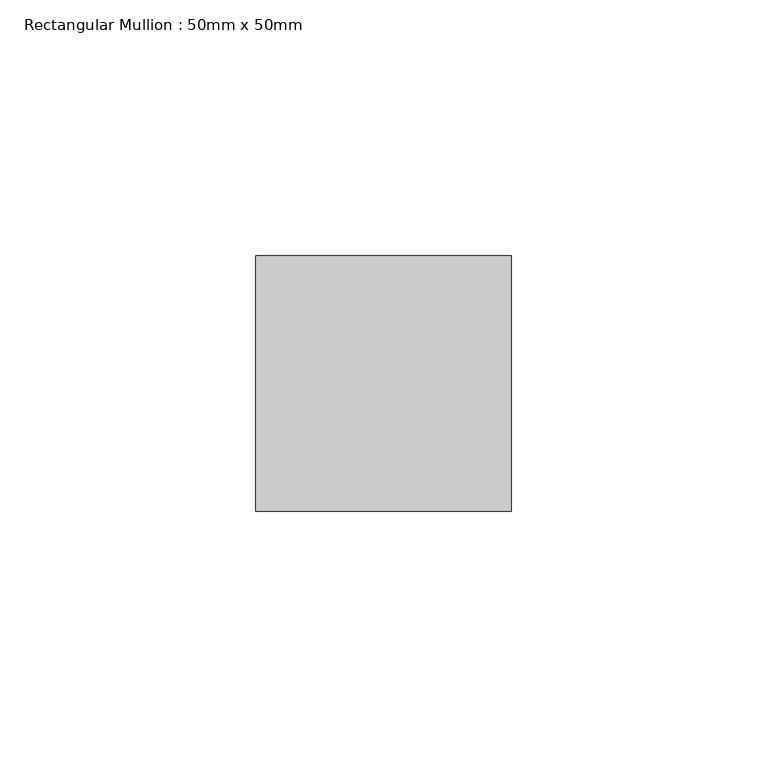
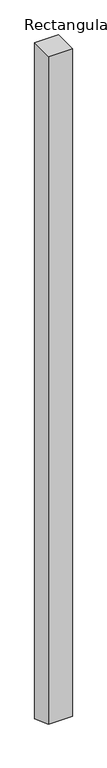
"""IFC4 building model written with IfcOpenShell, lengths in millimetres: member geometry, Rectangular Mullion : 50mm x 50mm."""

import ifcopenshell
import ifcopenshell.guid

model = None  # the IFC model being written
_history = None  # IfcOwnerHistory: only IFC2X3 demands one
_inside = {}  # id of a spatial element -> (the spatial element, [elements in it])
_under = {}  # id of a project, library or spatial element -> (it, [spatial elements below it])
_declared = {}  # id of a project -> (the project, [libraries it declares])
_typed = {}  # id of a type object -> (the type object, [elements of that type])
_made_of = {}  # id of a material, layer set ... -> (it, [elements and type objects made of it])


def new_model(schema):
    """Start an empty IFC model of exactly this schema.

    Asked for "IFC4X3", IfcOpenShell would pick the latest addendum, in which some entities
    have other attributes; the version numbers below select the first issue.
    IFC2X3 requires an IfcOwnerHistory on every rooted entity: one is made here for all.
    """
    global model, _history
    if schema == "IFC4X3":
        model = ifcopenshell.file(schema_version=(4, 3, 0, 0))
    else:
        model = ifcopenshell.file(schema=schema)
    _inside.clear()
    _under.clear()
    _declared.clear()
    _typed.clear()
    _made_of.clear()
    _history = None
    if model.schema == "IFC2X3":
        org = make("IfcOrganization", Name="unknown")
        user = make(
            "IfcPersonAndOrganization",
            ThePerson=make("IfcPerson", FamilyName="unknown"),
            TheOrganization=org,
        )
        app = make(
            "IfcApplication",
            ApplicationDeveloper=org,
            Version="unknown",
            ApplicationFullName="unknown",
            ApplicationIdentifier="unknown",
        )
        _history = make(
            "IfcOwnerHistory",
            OwningUser=user,
            OwningApplication=app,
            ChangeAction="ADDED",
            CreationDate=0,
        )
    return model


def make(cls, **values):
    """One entity of the class cls with the attributes given. An attribute that is None is left unset."""
    return model.create_entity(
        cls, **{name: value for name, value in values.items() if value is not None}
    )


def rooted(cls, **values):
    """An entity with a GlobalId (a new one), such as an element, a storey or a relation."""
    return make(cls, GlobalId=ifcopenshell.guid.new(), OwnerHistory=_history, **values)


def si_unit(unit_type, name, prefix=None):
    """IfcSIUnit, for example si_unit("LENGTHUNIT", "METRE", prefix="MILLI")."""
    return make("IfcSIUnit", UnitType=unit_type, Prefix=prefix, Name=name)


def assignment(units):
    """IfcUnitAssignment: the units of a project."""
    return None if units is None else make("IfcUnitAssignment", Units=units)


def point(xyz):
    """IfcCartesianPoint."""
    return None if xyz is None else make("IfcCartesianPoint", Coordinates=xyz)


def direction(xyz):
    """IfcDirection."""
    return None if xyz is None else make("IfcDirection", DirectionRatios=xyz)


def frame(location, z_axis=None, x_axis=None):
    """IfcAxis2Placement3D, a coordinate frame: its origin and axes. An axis left out is left unset."""
    return make(
        "IfcAxis2Placement3D",
        Location=point(location),
        Axis=direction(z_axis),
        RefDirection=direction(x_axis),
    )


def origin():
    """The frame at (0, 0, 0) with its axes left unset."""
    return frame((0.0, 0.0, 0.0))


def place(relative_to, where):
    """IfcLocalPlacement: puts the frame where relative to a parent placement (None: the world)."""
    return make(
        "IfcLocalPlacement", PlacementRelTo=relative_to, RelativePlacement=where
    )


def context(
    kind, dimensions, precision=None, world=None, true_north=None, identifier=None
):
    """IfcGeometricRepresentationContext, for example the 3D "Model" context."""
    return make(
        "IfcGeometricRepresentationContext",
        ContextIdentifier=identifier,
        ContextType=kind,
        CoordinateSpaceDimension=dimensions,
        Precision=precision,
        WorldCoordinateSystem=world,
        TrueNorth=true_north,
    )


def project(units=None, contexts=None):
    """IfcProject with its units and contexts."""
    return rooted(
        "IfcProject",
        Name="project",
        RepresentationContexts=contexts,
        UnitsInContext=assignment(units),
    )


def spatial(cls, under=None, at=None, **own):
    """A site, building, storey or space (cls), placed at a placement, below another one or the project."""
    s = rooted(cls, ObjectPlacement=at, **own)
    if under is not None:
        _under.setdefault(under.id(), (under, []))[1].append(s)
    return s


def polyline(points):
    """IfcPolyline through the points."""
    return make("IfcPolyline", Points=[point(p) for p in points])


def outline(outer, holes=None, kind="AREA"):
    """IfcArbitraryClosedProfileDef: a profile drawn as a closed curve; with holes, ...WithVoids."""
    if holes is None:
        return make("IfcArbitraryClosedProfileDef", ProfileType=kind, OuterCurve=outer)
    return make(
        "IfcArbitraryProfileDefWithVoids",
        ProfileType=kind,
        OuterCurve=outer,
        InnerCurves=holes,
    )


def extrude(swept, where, along, depth):
    """IfcExtrudedAreaSolid: the profile swept, set in the frame where, extruded along a direction by depth."""
    return make(
        "IfcExtrudedAreaSolid",
        SweptArea=swept,
        Position=where,
        ExtrudedDirection=direction(along),
        Depth=depth,
    )


def shape(context_of_items, identifier, shape_type, items):
    """IfcShapeRepresentation: the items that make up one representation, for example the "Body"."""
    return make(
        "IfcShapeRepresentation",
        ContextOfItems=context_of_items,
        RepresentationIdentifier=identifier,
        RepresentationType=shape_type,
        Items=items,
    )


def source(mapping_origin, context_of_items, identifier, shape_type, items):
    """IfcRepresentationMap: a shape defined once, which mapped items show again and again."""
    return make(
        "IfcRepresentationMap",
        MappingOrigin=mapping_origin,
        MappedRepresentation=shape(context_of_items, identifier, shape_type, items),
    )


def transform(
    local_origin,
    x_axis=None,
    y_axis=None,
    z_axis=None,
    scale=None,
    scale2=None,
    scale3=None,
    uniform=True,
):
    """IfcCartesianTransformationOperator3D, or its non-uniform kind. x_axis, y_axis, z_axis: its Axis1, 2, 3."""
    if uniform:
        return make(
            "IfcCartesianTransformationOperator3D",
            Axis1=direction(x_axis),
            Axis2=direction(y_axis),
            LocalOrigin=point(local_origin),
            Scale=scale,
            Axis3=direction(z_axis),
        )
    return make(
        "IfcCartesianTransformationOperator3DnonUniform",
        Axis1=direction(x_axis),
        Axis2=direction(y_axis),
        LocalOrigin=point(local_origin),
        Scale=scale,
        Axis3=direction(z_axis),
        Scale2=scale2,
        Scale3=scale3,
    )


def mapped(mapping_source, mapping_target):
    """IfcMappedItem: shows the shape of a source again, moved by a transform."""
    return make(
        "IfcMappedItem", MappingSource=mapping_source, MappingTarget=mapping_target
    )


def made_of(thing, what):
    """Note that an element or type object is made of a material, layer set ...; save() writes the relation."""
    if what is not None:
        _made_of.setdefault(what.id(), (what, []))[1].append(thing)
    return thing


def element(
    cls,
    number,
    at=None,
    inside=None,
    cuts=None,
    type_object=None,
    material=None,
    context=None,
    identifier="Body",
    shape_type=None,
    held_by="IfcProductDefinitionShape",
    body=None,
    shapes=None,
    **own,
):
    """One element of the class cls, such as IfcWall. Its Tag is "e" and its number.

    at: its placement. inside: the storey or other place that contains it. cuts: it is an
    opening in that element (IfcRelVoidsElement). A single representation is given by context,
    identifier, shape_type and body (its items); several are given by shapes. held_by: the class
    of the entity that holds the representations. save() writes the other relations.
    """
    e = rooted(cls, Tag="e%d" % number, ObjectPlacement=at, **own)
    if body is not None:
        shapes = [shape(context, identifier, shape_type, body)]
    if shapes is not None:
        e.Representation = make(held_by, Representations=shapes)
    if inside is not None:
        _inside.setdefault(inside.id(), (inside, []))[1].append(e)
    if cuts is not None:
        rooted(
            "IfcRelVoidsElement", RelatingBuildingElement=cuts, RelatedOpeningElement=e
        )
    if type_object is not None:
        _typed.setdefault(type_object.id(), (type_object, []))[1].append(e)
    return made_of(e, material)


def aggregate(whole, parts):
    """IfcRelAggregates: a whole, such as a stair, and the parts it consists of."""
    return rooted("IfcRelAggregates", RelatingObject=whole, RelatedObjects=parts)


def save(model, path):
    """Write the relations noted so far, then the file.

    IfcRelAggregates (storeys below a building ...), IfcRelContainedInSpatialStructure (elements
    in a storey), IfcRelDefinesByType, IfcRelAssociatesMaterial and IfcRelDeclares: one each for
    every whole, place, type object, material and project.
    """
    for whole, parts in _under.values():
        aggregate(whole, parts)
    for where, things in _inside.values():
        rooted(
            "IfcRelContainedInSpatialStructure",
            RelatedElements=things,
            RelatingStructure=where,
        )
    for kind, things in _typed.values():
        rooted("IfcRelDefinesByType", RelatedObjects=things, RelatingType=kind)
    for what, things in _made_of.values():
        rooted("IfcRelAssociatesMaterial", RelatedObjects=things, RelatingMaterial=what)
    for by, libraries in _declared.values():
        rooted("IfcRelDeclares", RelatingContext=by, RelatedDefinitions=libraries)
    model.write(path)


def rectangular_mullion_50mm_x_50mm_09aa12ec(model_context):
    return source(origin(), model_context, "Body", "SweptSolid", [
        extrude(outline(polyline([(-25.0, 0.0), (25.0, 0.0), (25.0, -1497.0847632), (-25.0, -1478.3976467), (-25.0, 0.0)])), frame((-25.0, 0.0, 0.0), z_axis=(1.0, 0.0, 0.0), x_axis=(0.0, 1.0, 0.0)), (0.0, 0.0, 1.0), 50.0),
    ])


if __name__ == "__main__":
    model = new_model("IFC4")
    model_context = context("Model", 3, world=origin())
    ifc_project = project(units=[si_unit("LENGTHUNIT", "METRE", prefix="MILLI")], contexts=[model_context])
    site = spatial("IfcSite", under=ifc_project)
    building = spatial("IfcBuilding", under=site)
    placement = place(None, origin())
    rectangular_mullion_50mm_x_50mm_shape = rectangular_mullion_50mm_x_50mm_09aa12ec(model_context)
    element("IfcMember", 1, ObjectType="Rectangular Mullion : 50mm x 50mm", at=placement, inside=building, context=model_context, shape_type="MappedRepresentation", body=[
        mapped(rectangular_mullion_50mm_x_50mm_shape, transform((0.0, 0.0, 0.0), x_axis=(1.0, 0.0, 0.0), y_axis=(0.0, 1.0, 0.0), z_axis=(0.0, 0.0, 1.0))),
    ])
    save(model, "model.ifc")
